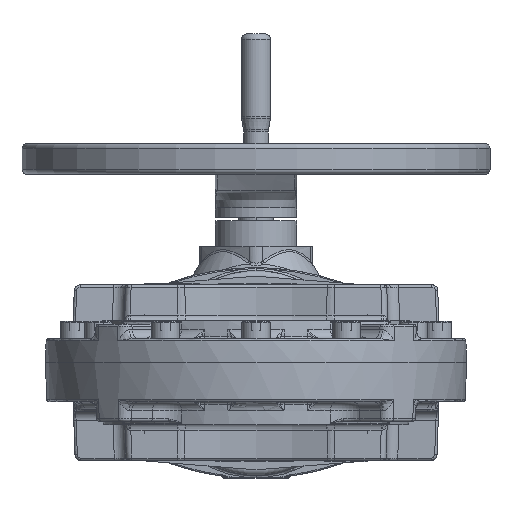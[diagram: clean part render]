
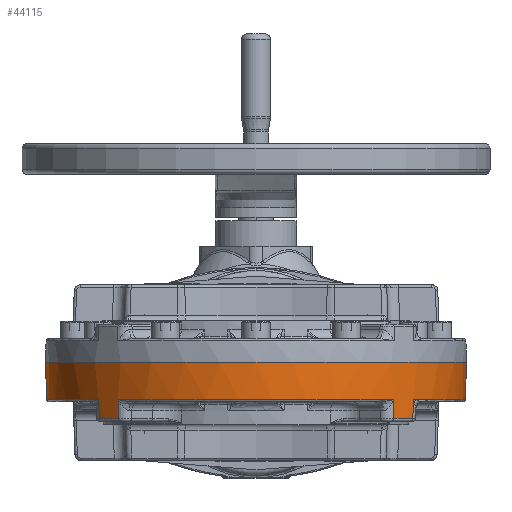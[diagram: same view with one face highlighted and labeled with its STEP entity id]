
A CAD part, front view. The second image highlights one B-rep face of the part: STEP entity #44115.
In plain terms, the highlighted conical face has half-angle 2 degrees and reference radius 180 mm.
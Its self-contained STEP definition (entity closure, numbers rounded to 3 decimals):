
#1443 = DIRECTION ( 'NONE',  ( 0., 0., 1. ) ) ;
#2266 = EDGE_CURVE ( 'NONE', #23395, #46922, #120088, .T. ) ;
#2305 = VERTEX_POINT ( 'NONE', #69667 ) ;
#3810 = CARTESIAN_POINT ( 'NONE',  ( 0., 0., -32.07 ) ) ;
#3968 = LINE ( 'NONE', #118913, #88171 ) ;
#4131 = DIRECTION ( 'NONE',  ( 1., 0., 0. ) ) ;
#8743 = CARTESIAN_POINT ( 'NONE',  ( 0., 0., 0. ) ) ;
#8860 = DIRECTION ( 'NONE',  ( 0., 0., 1. ) ) ;
#9197 = CARTESIAN_POINT ( 'NONE',  ( 180., 0., 0. ) ) ;
#9367 = EDGE_CURVE ( 'NONE', #134108, #135705, #3968, .T. ) ;
#9531 = CONICAL_SURFACE ( 'NONE', #133979, 180., 0.035 ) ;
#10059 = LINE ( 'NONE', #72478, #39258 ) ;
#13380 = CIRCLE ( 'NONE', #123139, 178.88 ) ;
#13764 = EDGE_CURVE ( 'NONE', #55189, #84042, #10059, .T. ) ;
#14730 = EDGE_CURVE ( 'NONE', #39694, #30555, #59485, .T. ) ;
#14828 = DIRECTION ( 'NONE',  ( 1., 0., 0. ) ) ;
#16343 = EDGE_CURVE ( 'NONE', #134108, #55189, #82785, .T. ) ;
#18947 = EDGE_CURVE ( 'NONE', #121147, #105622, #84660, .T. ) ;
#19511 = LINE ( 'NONE', #54323, #78050 ) ;
#20495 = CARTESIAN_POINT ( 'NONE',  ( 0., 0., -32.07 ) ) ;
#23395 = VERTEX_POINT ( 'NONE', #78107 ) ;
#23911 = CARTESIAN_POINT ( 'NONE',  ( 117.555, -134.064, -48.57 ) ) ;
#25001 = DIRECTION ( 'NONE',  ( 0., 0., 1. ) ) ;
#25856 = DIRECTION ( 'NONE',  ( -0.035, 0., 0.999 ) ) ;
#26745 = ORIENTED_EDGE ( 'NONE', *, *, #52715, .F. ) ;
#26942 = AXIS2_PLACEMENT_3D ( 'NONE', #90866, #25001, #101911 ) ;
#30555 = VERTEX_POINT ( 'NONE', #9197 ) ;
#31529 = DIRECTION ( 'NONE',  ( 1., 0., 0. ) ) ;
#33980 = LINE ( 'NONE', #92667, #92480 ) ;
#39258 = VECTOR ( 'NONE', #138321, 1000. ) ;
#39694 = VERTEX_POINT ( 'NONE', #133854 ) ;
#41333 = CARTESIAN_POINT ( 'NONE',  ( -134.064, -117.555, -48.57 ) ) ;
#42215 = DIRECTION ( 'NONE',  ( -0.023, -0.026, 0.999 ) ) ;
#42762 = CARTESIAN_POINT ( 'NONE',  ( -134.497, -117.935, -32.07 ) ) ;
#44115 = ADVANCED_FACE ( 'NONE', ( #136915 ), #9531, .T. ) ;
#44286 = CARTESIAN_POINT ( 'NONE',  ( 134.497, -117.935, -32.07 ) ) ;
#46922 = VERTEX_POINT ( 'NONE', #42762 ) ;
#52715 = EDGE_CURVE ( 'NONE', #23395, #39694, #33980, .T. ) ;
#53440 = DIRECTION ( 'NONE',  ( -1., 0., 0. ) ) ;
#54323 = CARTESIAN_POINT ( 'NONE',  ( -135.339, -118.673, 0. ) ) ;
#55189 = VERTEX_POINT ( 'NONE', #136626 ) ;
#55401 = EDGE_CURVE ( 'NONE', #105622, #2305, #72842, .T. ) ;
#59485 = CIRCLE ( 'NONE', #26942, 180. ) ;
#63538 = DIRECTION ( 'NONE',  ( 0., 0., 1. ) ) ;
#65503 = EDGE_CURVE ( 'NONE', #121147, #46922, #19511, .T. ) ;
#66648 = ORIENTED_EDGE ( 'NONE', *, *, #55401, .T. ) ;
#67287 = CARTESIAN_POINT ( 'NONE',  ( 0., 0., -48.57 ) ) ;
#67926 = ORIENTED_EDGE ( 'NONE', *, *, #14730, .F. ) ;
#69667 = CARTESIAN_POINT ( 'NONE',  ( -117.935, -134.497, -32.07 ) ) ;
#70004 = DIRECTION ( 'NONE',  ( 0., 0., 1. ) ) ;
#72200 = CARTESIAN_POINT ( 'NONE',  ( 178.88, 0., -32.07 ) ) ;
#72478 = CARTESIAN_POINT ( 'NONE',  ( 135.339, -118.673, 0. ) ) ;
#72842 = LINE ( 'NONE', #120169, #102008 ) ;
#72997 = DIRECTION ( 'NONE',  ( 0.035, 0., 0.999 ) ) ;
#74547 = ORIENTED_EDGE ( 'NONE', *, *, #13764, .T. ) ;
#74732 = CARTESIAN_POINT ( 'NONE',  ( 0., 0., -32.07 ) ) ;
#75105 = ORIENTED_EDGE ( 'NONE', *, *, #2266, .T. ) ;
#75236 = EDGE_CURVE ( 'NONE', #131232, #30555, #121063, .T. ) ;
#78050 = VECTOR ( 'NONE', #119750, 1000. ) ;
#78107 = CARTESIAN_POINT ( 'NONE',  ( -178.88, 0., -32.07 ) ) ;
#78340 = DIRECTION ( 'NONE',  ( 1., 0., 0. ) ) ;
#80713 = DIRECTION ( 'NONE',  ( 0., 0., 1. ) ) ;
#81850 = ORIENTED_EDGE ( 'NONE', *, *, #65503, .F. ) ;
#82265 = ORIENTED_EDGE ( 'NONE', *, *, #16343, .T. ) ;
#82785 = CIRCLE ( 'NONE', #126940, 178.304 ) ;
#84042 = VERTEX_POINT ( 'NONE', #44286 ) ;
#84660 = CIRCLE ( 'NONE', #121510, 178.304 ) ;
#85535 = AXIS2_PLACEMENT_3D ( 'NONE', #3810, #80713, #14828 ) ;
#85718 = DIRECTION ( 'NONE',  ( 1., 0., 0. ) ) ;
#88171 = VECTOR ( 'NONE', #107797, 1000. ) ;
#88445 = ORIENTED_EDGE ( 'NONE', *, *, #108018, .T. ) ;
#90681 = CARTESIAN_POINT ( 'NONE',  ( 117.935, -134.497, -32.07 ) ) ;
#90866 = CARTESIAN_POINT ( 'NONE',  ( 0., 0., 0. ) ) ;
#91759 = VECTOR ( 'NONE', #72997, 1000. ) ;
#92480 = VECTOR ( 'NONE', #25856, 1000. ) ;
#92667 = CARTESIAN_POINT ( 'NONE',  ( -180., 0., 0. ) ) ;
#95644 = ORIENTED_EDGE ( 'NONE', *, *, #125026, .T. ) ;
#97373 = DIRECTION ( 'NONE',  ( 0., 0., 1. ) ) ;
#97769 = CIRCLE ( 'NONE', #139624, 178.88 ) ;
#100098 = ORIENTED_EDGE ( 'NONE', *, *, #9367, .F. ) ;
#101911 = DIRECTION ( 'NONE',  ( 1., 0., 0. ) ) ;
#102008 = VECTOR ( 'NONE', #42215, 1000. ) ;
#105607 = CARTESIAN_POINT ( 'NONE',  ( 180., 0., 0. ) ) ;
#105622 = VERTEX_POINT ( 'NONE', #121025 ) ;
#107797 = DIRECTION ( 'NONE',  ( 0.023, -0.026, 0.999 ) ) ;
#108018 = EDGE_CURVE ( 'NONE', #84042, #131232, #13380, .T. ) ;
#116616 = ORIENTED_EDGE ( 'NONE', *, *, #75236, .T. ) ;
#118913 = CARTESIAN_POINT ( 'NONE',  ( 118.673, -135.339, 0. ) ) ;
#119750 = DIRECTION ( 'NONE',  ( -0.026, -0.023, 0.999 ) ) ;
#120088 = CIRCLE ( 'NONE', #85535, 178.88 ) ;
#120169 = CARTESIAN_POINT ( 'NONE',  ( -118.673, -135.339, 0. ) ) ;
#121025 = CARTESIAN_POINT ( 'NONE',  ( -117.555, -134.064, -48.57 ) ) ;
#121063 = LINE ( 'NONE', #105607, #91759 ) ;
#121147 = VERTEX_POINT ( 'NONE', #41333 ) ;
#121510 = AXIS2_PLACEMENT_3D ( 'NONE', #135885, #70004, #4131 ) ;
#123139 = AXIS2_PLACEMENT_3D ( 'NONE', #74732, #8860, #85718 ) ;
#125026 = EDGE_CURVE ( 'NONE', #2305, #135705, #97769, .T. ) ;
#126940 = AXIS2_PLACEMENT_3D ( 'NONE', #67287, #1443, #78340 ) ;
#131232 = VERTEX_POINT ( 'NONE', #72200 ) ;
#132010 = EDGE_LOOP ( 'NONE', ( #88445, #116616, #67926, #26745, #75105, #81850, #139020, #66648, #95644, #100098, #82265, #74547 ) ) ;
#133854 = CARTESIAN_POINT ( 'NONE',  ( -180., 0., 0. ) ) ;
#133979 = AXIS2_PLACEMENT_3D ( 'NONE', #8743, #63538, #53440 ) ;
#134108 = VERTEX_POINT ( 'NONE', #23911 ) ;
#135705 = VERTEX_POINT ( 'NONE', #90681 ) ;
#135885 = CARTESIAN_POINT ( 'NONE',  ( 0., 0., -48.57 ) ) ;
#136626 = CARTESIAN_POINT ( 'NONE',  ( 134.064, -117.555, -48.57 ) ) ;
#136915 = FACE_OUTER_BOUND ( 'NONE', #132010, .T. ) ;
#138321 = DIRECTION ( 'NONE',  ( 0.026, -0.023, 0.999 ) ) ;
#139020 = ORIENTED_EDGE ( 'NONE', *, *, #18947, .T. ) ;
#139624 = AXIS2_PLACEMENT_3D ( 'NONE', #20495, #97373, #31529 ) ;
